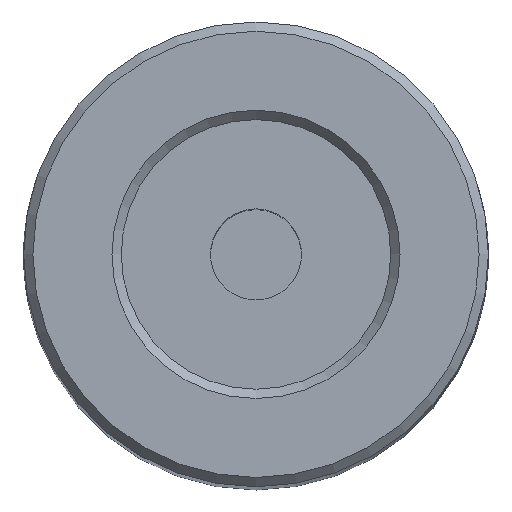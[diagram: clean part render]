
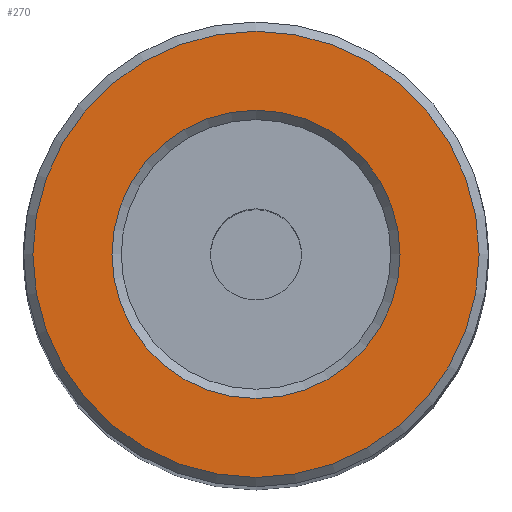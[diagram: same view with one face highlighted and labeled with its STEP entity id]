
A CAD part, top view. The second image highlights one B-rep face of the part: STEP entity #270.
In plain terms, the highlighted planar face has unit normal (0, 0, 1).
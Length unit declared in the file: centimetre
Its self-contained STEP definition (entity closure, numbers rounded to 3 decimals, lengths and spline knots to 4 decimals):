
#111=PLANE('',#291);
#130=VERTEX_POINT('',#435);
#131=VERTEX_POINT('',#438);
#144=CIRCLE('',#290,1.2192);
#145=CIRCLE('',#292,0.7874);
#158=EDGE_CURVE('',#130,#130,#144,.T.);
#159=EDGE_CURVE('',#131,#131,#145,.T.);
#180=ORIENTED_EDGE('',*,*,#159,.T.);
#181=ORIENTED_EDGE('',*,*,#158,.F.);
#216=EDGE_LOOP('',(#180));
#217=EDGE_LOOP('',(#181));
#246=FACE_BOUND('',#216,.T.);
#247=FACE_BOUND('',#217,.T.);
#270=ADVANCED_FACE('',(#246,#247),#111,.T.);
#290=AXIS2_PLACEMENT_3D('',#434,#1039,#1040);
#291=AXIS2_PLACEMENT_3D('',#436,#1041,$);
#292=AXIS2_PLACEMENT_3D('',#437,#1042,#1043);
#434=CARTESIAN_POINT('',(0.,0.,5.08));
#435=CARTESIAN_POINT('',(1.2192,0.,5.08));
#436=CARTESIAN_POINT('',(0.,0.,5.08));
#437=CARTESIAN_POINT('',(0.,0.,5.08));
#438=CARTESIAN_POINT('',(0.7874,0.,5.08));
#1039=DIRECTION('',(0.,0.,-1.));
#1040=DIRECTION('',(-1.219,0.,0.));
#1041=DIRECTION('',(0.,0.,1.));
#1042=DIRECTION('',(0.,0.,-1.));
#1043=DIRECTION('',(0.787,0.,0.));
